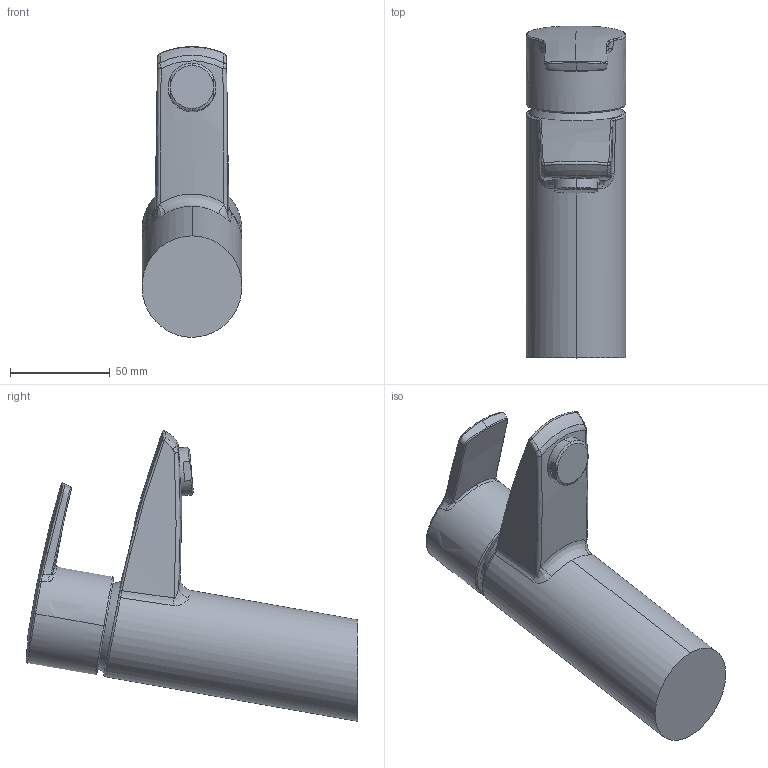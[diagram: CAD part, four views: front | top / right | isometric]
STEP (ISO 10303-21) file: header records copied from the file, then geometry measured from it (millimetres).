
FILE_DESCRIPTION (( 'STEP AP203' ), '1' );
FILE_NAME ('2804+2804F+2810+2810F.STEP', '2018-07-10T09:19:48', ( '' ), ( '' ), 'SwSTEP 2.0', 'SolidWorks 2016', '' );
FILE_SCHEMA (( 'CONFIG_CONTROL_DESIGN' ));
Length unit declared in the file: millimetre
Products named in the file (1): 2804+2804F+2810+2810F
Bounding box: 50 x 166.14 x 145.48 mm (x, y, z)
Volume: 389812.7 mm3; surface area: 41325.5 mm2
Topology: 1 solids, 1 shells, 75 faces, 186 edges, 116 vertices
Faces by surface type: bspline 57, plane 7, cylinder 4, torus 4, cone 2, sphere 1
Entity records: 7368 total; most frequent: CARTESIAN_POINT 5998, ORIENTED_EDGE 368, EDGE_CURVE 184, DIRECTION 122, B_SPLINE_CURVE_WITH_KNOTS 118, VERTEX_POINT 115, EDGE_LOOP 79, FACE_OUTER_BOUND 75
